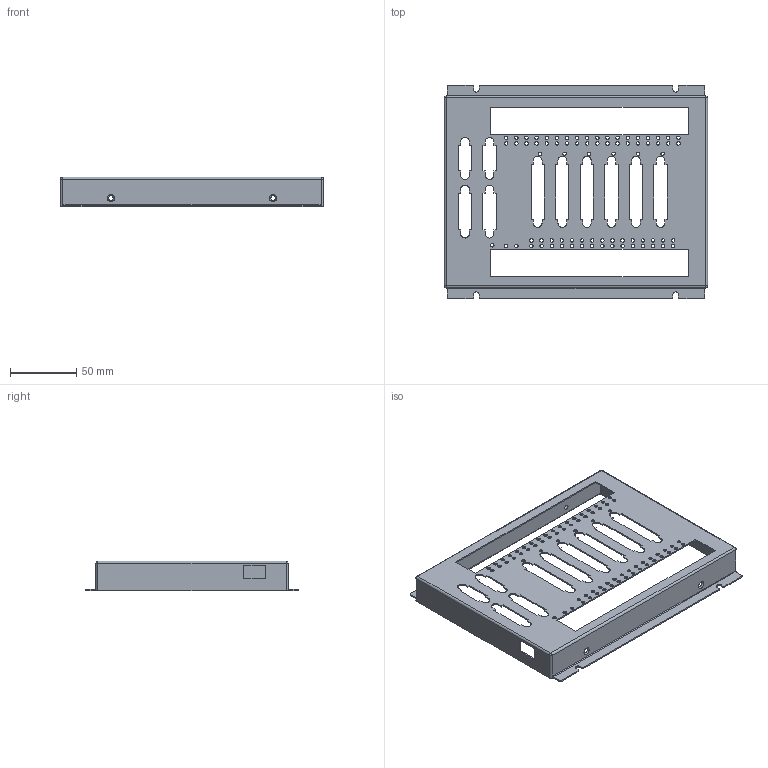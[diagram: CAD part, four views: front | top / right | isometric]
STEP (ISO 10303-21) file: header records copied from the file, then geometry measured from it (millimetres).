
FILE_DESCRIPTION((''),'2;1');
FILE_NAME('TOPCVOER','2022-07-05T',('Administrator'),(''),'PRO/ENGINEER BY PARAMETRIC TECHNOLOGY CORPORATION, 2010280','PRO/ENGINEER BY PARAMETRIC TECHNOLOGY CORPORATION, 2010280','');
FILE_SCHEMA(('CONFIG_CONTROL_DESIGN'));
Length unit declared in the file: millimetre
Products named in the file (1): TOPCVOER
Bounding box: 198 x 160.5 x 22.3 mm (x, y, z)
Volume: 34771.9 mm3; surface area: 72801.8 mm2
Topology: 1 solids, 1 shells, 384 faces, 1106 edges, 724 vertices
Faces by surface type: cylinder 206, plane 162, sphere 8, cone 8
Entity records: 13104 total; most frequent: DIRECTION 2302, CARTESIAN_POINT 2214, ORIENTED_EDGE 2212, EDGE_CURVE 1106, AXIS2_PLACEMENT_3D 812, VERTEX_POINT 724, VECTOR 678, LINE 678
